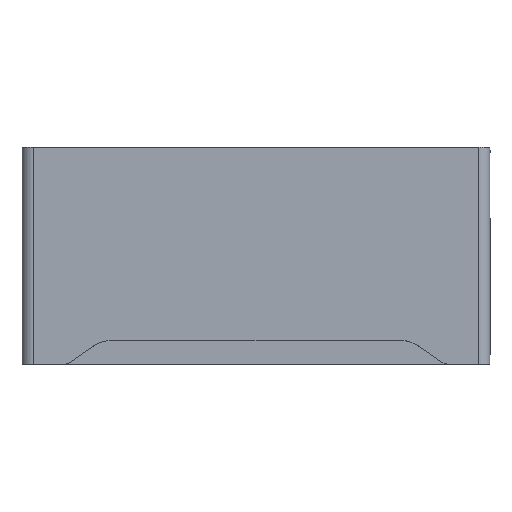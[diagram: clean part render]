
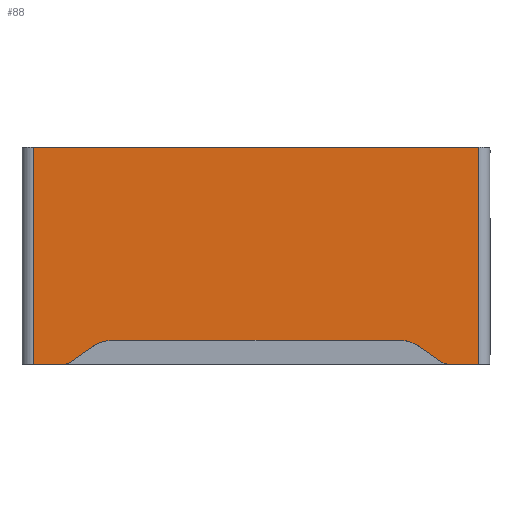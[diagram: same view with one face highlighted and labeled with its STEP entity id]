
A CAD part, top view. The second image highlights one B-rep face of the part: STEP entity #88.
In plain terms, the highlighted planar face has unit normal (0, 0, 1).
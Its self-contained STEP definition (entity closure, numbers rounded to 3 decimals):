
#88=ADVANCED_FACE('',(#229),#2016,.T.);
#229=FACE_OUTER_BOUND('',#368,.T.);
#368=EDGE_LOOP('',(#850,#851,#852,#853,#854,#855,#856,#857,#858,#859,#860,
#861));
#850=ORIENTED_EDGE('',*,*,#1281,.T.);
#851=ORIENTED_EDGE('',*,*,#1286,.T.);
#852=ORIENTED_EDGE('',*,*,#1289,.T.);
#853=ORIENTED_EDGE('',*,*,#1293,.T.);
#854=ORIENTED_EDGE('',*,*,#1152,.T.);
#855=ORIENTED_EDGE('',*,*,#1279,.F.);
#856=ORIENTED_EDGE('',*,*,#1276,.F.);
#857=ORIENTED_EDGE('',*,*,#1282,.T.);
#858=ORIENTED_EDGE('',*,*,#1150,.T.);
#859=ORIENTED_EDGE('',*,*,#1301,.T.);
#860=ORIENTED_EDGE('',*,*,#1297,.T.);
#861=ORIENTED_EDGE('',*,*,#1299,.T.);
#1150=EDGE_CURVE('',#1780,#1773,#1581,.T.);
#1152=EDGE_CURVE('',#1782,#1783,#1583,.T.);
#1276=EDGE_CURVE('',#1878,#1877,#1655,.T.);
#1279=EDGE_CURVE('',#1877,#1783,#1657,.T.);
#1281=EDGE_CURVE('',#1881,#1882,#1658,.T.);
#1282=EDGE_CURVE('',#1878,#1780,#1659,.T.);
#1286=EDGE_CURVE('',#1882,#1886,#1466,.T.);
#1289=EDGE_CURVE('',#1886,#1885,#1664,.T.);
#1293=EDGE_CURVE('',#1885,#1782,#1469,.T.);
#1297=EDGE_CURVE('',#1884,#1883,#1670,.T.);
#1299=EDGE_CURVE('',#1883,#1881,#1470,.T.);
#1301=EDGE_CURVE('',#1773,#1884,#1472,.T.);
#1466=(
BOUNDED_CURVE()
B_SPLINE_CURVE(2,(#3453,#3454,#3455),.UNSPECIFIED.,.F.,.F.)
B_SPLINE_CURVE_WITH_KNOTS((3,3),(0.,13.439),.UNSPECIFIED.)
CURVE()
GEOMETRIC_REPRESENTATION_ITEM()
RATIONAL_B_SPLINE_CURVE((1.,0.954,1.))
REPRESENTATION_ITEM('')
);
#1469=(
BOUNDED_CURVE()
B_SPLINE_CURVE(2,(#3470,#3471,#3472),.UNSPECIFIED.,.F.,.F.)
B_SPLINE_CURVE_WITH_KNOTS((3,3),(0.,6.109),.UNSPECIFIED.)
CURVE()
GEOMETRIC_REPRESENTATION_ITEM()
RATIONAL_B_SPLINE_CURVE((1.,0.954,1.))
REPRESENTATION_ITEM('')
);
#1470=(
BOUNDED_CURVE()
B_SPLINE_CURVE(2,(#3483,#3484,#3485),.UNSPECIFIED.,.F.,.F.)
B_SPLINE_CURVE_WITH_KNOTS((3,3),(0.,13.439),.UNSPECIFIED.)
CURVE()
GEOMETRIC_REPRESENTATION_ITEM()
RATIONAL_B_SPLINE_CURVE((1.,0.954,1.))
REPRESENTATION_ITEM('')
);
#1472=(
BOUNDED_CURVE()
B_SPLINE_CURVE(2,(#3489,#3490,#3491),.UNSPECIFIED.,.F.,.F.)
B_SPLINE_CURVE_WITH_KNOTS((3,3),(0.,6.109),.UNSPECIFIED.)
CURVE()
GEOMETRIC_REPRESENTATION_ITEM()
RATIONAL_B_SPLINE_CURVE((1.,0.954,1.))
REPRESENTATION_ITEM('')
);
#1581=B_SPLINE_CURVE_WITH_KNOTS('',1,(#3043,#3044),.UNSPECIFIED.,.F.,.F.,
(2,2),(0.,17.925),.UNSPECIFIED.);
#1583=B_SPLINE_CURVE_WITH_KNOTS('',1,(#3047,#3048),.UNSPECIFIED.,.F.,.F.,
(2,2),(0.,17.925),.UNSPECIFIED.);
#1655=B_SPLINE_CURVE_WITH_KNOTS('',1,(#3431,#3432),.UNSPECIFIED.,.F.,.F.,
(2,2),(-277.,0.),.UNSPECIFIED.);
#1657=B_SPLINE_CURVE_WITH_KNOTS('',1,(#3438,#3439),.UNSPECIFIED.,.F.,.F.,
(2,2),(-135.,0.),.UNSPECIFIED.);
#1658=B_SPLINE_CURVE_WITH_KNOTS('',1,(#3443,#3444),.UNSPECIFIED.,.F.,.F.,
(2,2),(-178.127,0.),.UNSPECIFIED.);
#1659=B_SPLINE_CURVE_WITH_KNOTS('',1,(#3445,#3446),.UNSPECIFIED.,.F.,.F.,
(2,2),(-135.,0.),.UNSPECIFIED.);
#1664=B_SPLINE_CURVE_WITH_KNOTS('',1,(#3461,#3462),.UNSPECIFIED.,.F.,.F.,
(2,2),(0.,16.062),.UNSPECIFIED.);
#1670=B_SPLINE_CURVE_WITH_KNOTS('',1,(#3479,#3480),.UNSPECIFIED.,.F.,.F.,
(2,2),(0.,16.062),.UNSPECIFIED.);
#1773=VERTEX_POINT('',#2661);
#1780=VERTEX_POINT('',#2668);
#1782=VERTEX_POINT('',#2670);
#1783=VERTEX_POINT('',#2671);
#1877=VERTEX_POINT('',#2765);
#1878=VERTEX_POINT('',#2766);
#1881=VERTEX_POINT('',#2769);
#1882=VERTEX_POINT('',#2770);
#1883=VERTEX_POINT('',#2771);
#1884=VERTEX_POINT('',#2772);
#1885=VERTEX_POINT('',#2773);
#1886=VERTEX_POINT('',#2774);
#2016=PLANE('',#2186);
#2186=AXIS2_PLACEMENT_3D('',#2482,#2298,$);
#2298=DIRECTION('',(0.,0.,1.));
#2482=CARTESIAN_POINT('',(-166.32,16.38,60.1));
#2661=CARTESIAN_POINT('',(-120.575,30.,60.1));
#2668=CARTESIAN_POINT('',(-138.5,30.,60.1));
#2670=CARTESIAN_POINT('',(120.575,30.,60.1));
#2671=CARTESIAN_POINT('',(138.5,30.,60.1));
#2765=CARTESIAN_POINT('',(138.5,165.,60.1));
#2766=CARTESIAN_POINT('',(-138.5,165.,60.1));
#2769=CARTESIAN_POINT('',(-89.063,45.,60.1));
#2770=CARTESIAN_POINT('',(89.063,45.,60.1));
#2771=CARTESIAN_POINT('',(-101.682,41.021,60.1));
#2772=CARTESIAN_POINT('',(-114.839,31.808,60.1));
#2773=CARTESIAN_POINT('',(114.839,31.808,60.1));
#2774=CARTESIAN_POINT('',(101.682,41.021,60.1));
#3043=CARTESIAN_POINT('',(-138.5,30.,60.1));
#3044=CARTESIAN_POINT('',(-120.575,30.,60.1));
#3047=CARTESIAN_POINT('',(120.575,30.,60.1));
#3048=CARTESIAN_POINT('',(138.5,30.,60.1));
#3431=CARTESIAN_POINT('',(-138.5,165.,60.1));
#3432=CARTESIAN_POINT('',(138.5,165.,60.1));
#3438=CARTESIAN_POINT('',(138.5,165.,60.1));
#3439=CARTESIAN_POINT('',(138.5,30.,60.1));
#3443=CARTESIAN_POINT('',(-89.063,45.,60.1));
#3444=CARTESIAN_POINT('',(89.063,45.,60.1));
#3445=CARTESIAN_POINT('',(-138.5,165.,60.1));
#3446=CARTESIAN_POINT('',(-138.5,30.,60.1));
#3453=CARTESIAN_POINT('',(89.063,45.,60.1));
#3454=CARTESIAN_POINT('',(96.,45.,60.1));
#3455=CARTESIAN_POINT('',(101.682,41.021,60.1));
#3461=CARTESIAN_POINT('',(101.682,41.021,60.1));
#3462=CARTESIAN_POINT('',(114.839,31.808,60.1));
#3470=CARTESIAN_POINT('',(114.839,31.808,60.1));
#3471=CARTESIAN_POINT('',(117.422,30.,60.1));
#3472=CARTESIAN_POINT('',(120.575,30.,60.1));
#3479=CARTESIAN_POINT('',(-114.839,31.808,60.1));
#3480=CARTESIAN_POINT('',(-101.682,41.021,60.1));
#3483=CARTESIAN_POINT('',(-101.682,41.021,60.1));
#3484=CARTESIAN_POINT('',(-96.,45.,60.1));
#3485=CARTESIAN_POINT('',(-89.063,45.,60.1));
#3489=CARTESIAN_POINT('',(-120.575,30.,60.1));
#3490=CARTESIAN_POINT('',(-117.422,30.,60.1));
#3491=CARTESIAN_POINT('',(-114.839,31.808,60.1));
